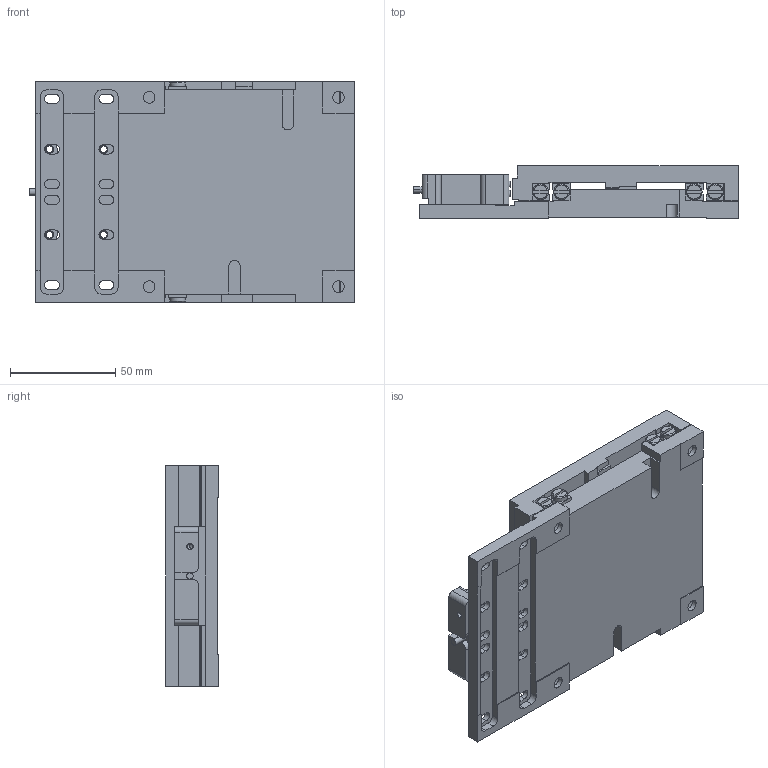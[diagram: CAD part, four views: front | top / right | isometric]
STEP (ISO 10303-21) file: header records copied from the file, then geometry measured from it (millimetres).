
FILE_DESCRIPTION((''),'2;1');
FILE_NAME('MT105_50______________00011725_ASM','2016-08-26T',('profile'),(''),'PRO/ENGINEER BY PARAMETRIC TECHNOLOGY CORPORATION, 2015280','PRO/ENGINEER BY PARAMETRIC TECHNOLOGY CORPORATION, 2015280','');
FILE_SCHEMA(('CONFIG_CONTROL_DESIGN'));
Length unit declared in the file: millimetre
Products named in the file (4): MT105_BASIS___________00011722; MT105_SCHIEBER________00011723; KT_MOTOR_HR4_99_70039_00011718; MT105_50______________00011725_ASM
Assembly tree (3 placements, depth 2):
  MT105_50______________00011725_ASM
    MT105_BASIS___________00011722
    MT105_SCHIEBER________00011723
    KT_MOTOR_HR4_99_70039_00011718
Bounding box: 154.3 x 25 x 105 mm (x, y, z)
Volume: 285827.3 mm3; surface area: 83263.5 mm2
Topology: 3 solids, 12 shells, 404 faces, 1175 edges, 775 vertices
Faces by surface type: plane 250, cylinder 126, cone 28
Entity records: 13568 total; most frequent: CARTESIAN_POINT 2501, DIRECTION 2315, ORIENTED_EDGE 2270, EDGE_CURVE 1165, VERTEX_POINT 775, AXIS2_PLACEMENT_3D 773, VECTOR 769, LINE 769
